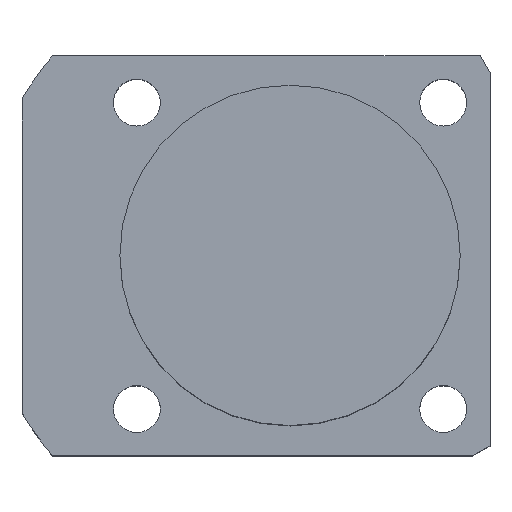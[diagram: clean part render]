
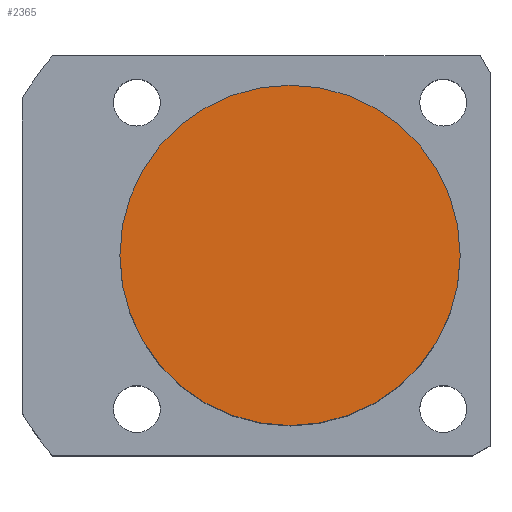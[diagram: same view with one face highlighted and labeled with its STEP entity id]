
A CAD part, top view. The second image highlights one B-rep face of the part: STEP entity #2365.
In plain terms, the highlighted planar face has unit normal (0, 0, 1).
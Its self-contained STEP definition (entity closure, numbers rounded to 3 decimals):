
#7 = EDGE_CURVE ( 'NONE', #799, #3497, #1729, .T. ) ;
#153 = EDGE_LOOP ( 'NONE', ( #1159, #499 ) ) ;
#170 = CARTESIAN_POINT ( 'NONE',  ( 0., 0., 41.5 ) ) ;
#448 = DIRECTION ( 'NONE',  ( 0., 0., 1. ) ) ;
#483 = DIRECTION ( 'NONE',  ( 0., 0., 1. ) ) ;
#499 = ORIENTED_EDGE ( 'NONE', *, *, #7, .T. ) ;
#665 = CARTESIAN_POINT ( 'NONE',  ( -20., 0., 41.5 ) ) ;
#799 = VERTEX_POINT ( 'NONE', #2896 ) ;
#964 = PLANE ( 'NONE',  #1008 ) ;
#1008 = AXIS2_PLACEMENT_3D ( 'NONE', #2763, #1314, #1332 ) ;
#1085 = EDGE_CURVE ( 'NONE', #3497, #799, #1790, .T. ) ;
#1159 = ORIENTED_EDGE ( 'NONE', *, *, #1085, .T. ) ;
#1314 = DIRECTION ( 'NONE',  ( 0., 0., 1. ) ) ;
#1332 = DIRECTION ( 'NONE',  ( 1., 0., 0. ) ) ;
#1372 = FACE_OUTER_BOUND ( 'NONE', #153, .T. ) ;
#1447 = AXIS2_PLACEMENT_3D ( 'NONE', #2623, #483, #1823 ) ;
#1729 = CIRCLE ( 'NONE', #1447, 20. ) ;
#1790 = CIRCLE ( 'NONE', #3362, 20. ) ;
#1823 = DIRECTION ( 'NONE',  ( 1., 0., 0. ) ) ;
#2365 = ADVANCED_FACE ( 'NONE', ( #1372 ), #964, .T. ) ;
#2623 = CARTESIAN_POINT ( 'NONE',  ( 0., 0., 41.5 ) ) ;
#2763 = CARTESIAN_POINT ( 'NONE',  ( 0., 0., 41.5 ) ) ;
#2896 = CARTESIAN_POINT ( 'NONE',  ( 20., 0., 41.5 ) ) ;
#3362 = AXIS2_PLACEMENT_3D ( 'NONE', #170, #448, #3592 ) ;
#3497 = VERTEX_POINT ( 'NONE', #665 ) ;
#3592 = DIRECTION ( 'NONE',  ( 1., 0., 0. ) ) ;
